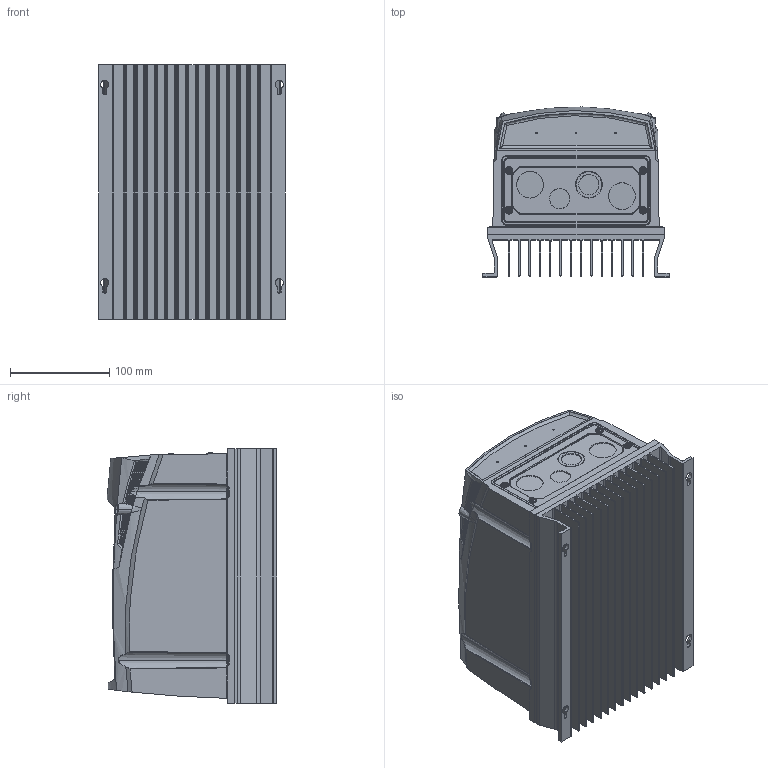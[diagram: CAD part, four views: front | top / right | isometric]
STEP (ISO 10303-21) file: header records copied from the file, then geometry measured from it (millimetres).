
FILE_DESCRIPTION (( 'STEP AP203' ), '1' );
FILE_NAME ('E3.IP66.Gen2.SIZE2.LED.NonSwitched-Closed (ENVELOPE) (4-Hole).STEP', '2022-08-04T11:18:59', ( '' ), ( '' ), 'SwSTEP 2.0', 'SolidWorks 2022', '' );
FILE_SCHEMA (( 'CONFIG_CONTROL_DESIGN' ));
Products named in the file (1): E3.IP66.Gen2.SIZE2.LED.NonSwitched-Closed (ENVELOPE) (4-Hole)
Bounding box: 188 x 171.26 x 257.09 mm (x, y, z)
Volume: 5269506.3 mm3; surface area: 508605.5 mm2
Topology: 1 solids, 7 shells, 2185 faces, 6527 edges, 4352 vertices
Faces by surface type: cylinder 651, sphere 650, plane 456, bspline 199, cone 139, torus 90
Entity records: 86933 total; most frequent: CARTESIAN_POINT 36914, ORIENTED_EDGE 10966, DIRECTION 9695, EDGE_CURVE 5483, AXIS2_PLACEMENT_3D 4148, VERTEX_POINT 3676, EDGE_LOOP 2499, CIRCLE 2195
